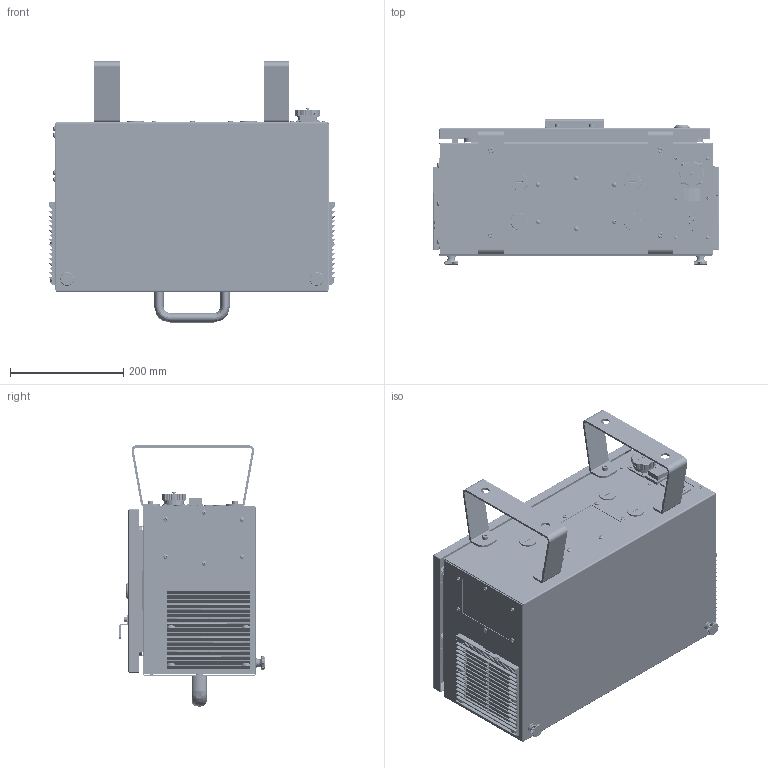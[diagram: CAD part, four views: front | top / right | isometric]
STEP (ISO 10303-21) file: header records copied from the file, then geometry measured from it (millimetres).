
FILE_DESCRIPTION (( 'STEP AP203' ), '1' );
FILE_NAME ('ERB1C4K0.STEP', '2023-08-11T08:34:59', ( '' ), ( '' ), 'SwSTEP 2.0', 'SolidWorks 2017', '' );
FILE_SCHEMA (( 'CONFIG_CONTROL_DESIGN' ));
Length unit declared in the file: millimetre
Products named in the file (28): 盓殤_1; 蟻裔 M25X1.5 窪伎 湍蹟譫_1; hexagon nuts with flange gb_GB_HEXAGON_TYPE12 M8-N; cross recessed pan head screws gb_GB_CROSS_SCREWS_TYPE1 M4X6-6  H type-N; 菁釱_1; WY32-Z; cross recessed pan head screws gb_GB_CROSS_SCREWS_TYPE1 M3X6-6  H type-N; 蝓蟈 HGZ-201-ST_1; C20脣釱; hexagon socket head cap screws gb_GB_FASTENER_SCREWS_HSHCS M6X10-N; 6622.300_1; 躇猾啣01_1; 脣种_1; 嶺忒_1; cross recessed countersunk head screws gb1_GB_CROSS_SCREWS_TYPE4 M3X8-6.35  H type-N; hexagon socket head cap screws gb_GB_FASTENER_SCREWS_HSHCS M5X10-N; hexagon nuts with flange gb_GB_HEXAGON_TYPE12 M5-N; ERB1C4K0; hexagon socket head cap screws gb_GB_FASTENER_SCREWS_HSHCS M8X12-N; 藷郪璃_1; knurled thumb screws gb_GB_KNURLED_SCREWS_TYPE1 M8X12-N; 蟀諉え_1; 唑境_1; 蟀諉ん假蚾鍼踢-C20; 蛌忕坶 MS705 H=25_1; ﾃﾅ_1; 眊极_1; 船型开关 KCD4 四脚两档带灯 红色 220V 30A
Assembly tree (67 placements, depth 4):
  ERB1C4K0
    眊极_1
    盓殤_1  x2
    藷郪璃_1
      ﾃﾅ_1
      蝓蟈 HGZ-201-ST_1  x2
        蟀諉え_1
        菁釱_1
        脣种_1
      蛌忕坶 MS705 H=25_1
    躇猾啣01_1  x2
    hexagon socket head cap screws gb_GB_FASTENER_SCREWS_HSHCS M6X10-N  x7
    cross recessed pan head screws gb_GB_CROSS_SCREWS_TYPE1 M4X6-6  H type-N  x12
    knurled thumb screws gb_GB_KNURLED_SCREWS_TYPE1 M8X12-N  x2
    hexagon nuts with flange gb_GB_HEXAGON_TYPE12 M8-N  x2
    hexagon socket head cap screws gb_GB_FASTENER_SCREWS_HSHCS M8X12-N  x2
    cross recessed pan head screws gb_GB_CROSS_SCREWS_TYPE1 M3X6-6  H type-N  x10
    6622.300_1  x2
    唑境_1
    hexagon socket head cap screws gb_GB_FASTENER_SCREWS_HSHCS M5X10-N  x2
    嶺忒_1
    cross recessed countersunk head screws gb1_GB_CROSS_SCREWS_TYPE4 M3X8-6.35  H type-N  x3
    hexagon nuts with flange gb_GB_HEXAGON_TYPE12 M5-N
    蟻裔 M25X1.5 窪伎 湍蹟譫_1  x4
    C20脣釱
    WY32-Z
    船型开关 KCD4 四脚两档带灯 红色 220V 30A
    蟀諉ん假蚾鍼踢-C20
Bounding box: 505.5 x 256.9 x 462.12 mm (x, y, z)
Volume: 1806665 mm3; surface area: 1895827.2 mm2
Topology: 87 solids, 87 shells, 7740 faces, 20549 edges, 12966 vertices
Faces by surface type: plane 4253, cylinder 2407, bspline 671, cone 224, torus 149, sphere 36
Entity records: 153586 total; most frequent: CARTESIAN_POINT 53681, ORIENTED_EDGE 21758, DIRECTION 17039, EDGE_CURVE 10879, VERTEX_POINT 6940, LINE 5735, VECTOR 5735, AXIS2_PLACEMENT_3D 5652
